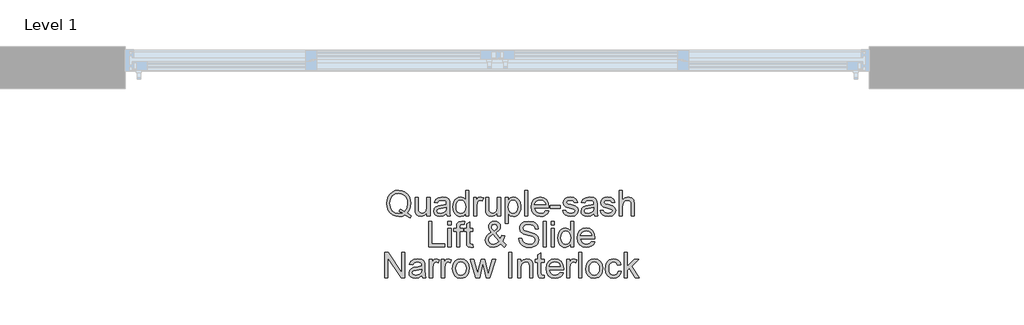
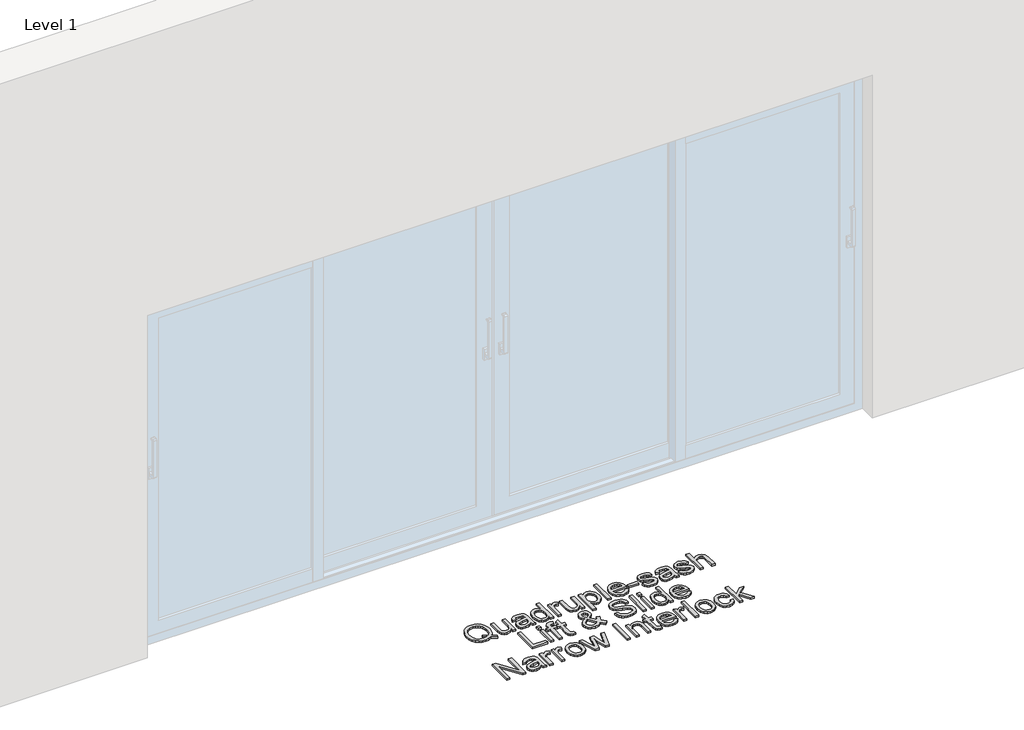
# One storey, part 2 of 17: 1 proxy.
"""IFC4 building model written with IfcOpenShell, lengths in millimetres."""

from ifc_helpers import new_model, si_unit, origin, origin_with_axes, place, context, project, spatial, polyline, outline, extrude, element, save

model = new_model("IFC4")

# Units and contexts
model_context = context("Model", 3, world=origin())
ifc_project = project(units=[si_unit("LENGTHUNIT", "METRE", prefix="MILLI")], contexts=[model_context])

# Site, building, storey
site = spatial("IfcSite", under=ifc_project)
building = spatial("IfcBuilding", under=site)
storey = spatial("IfcBuildingStorey", under=building, Name="Level 1", Elevation=0.0)

# Proxy
placement = place(None, origin())
element("IfcBuildingElementProxy", 1, Name="150mm Arial", ObjectType="150mm Arial", at=placement, inside=storey, context=model_context, shape_type="SweptSolid", body=[
    extrude(outline(polyline([(-5154.9723357, -5879.5997474), (-5131.611829, -5895.3083086), (-5136.6886005, -5909.1038834), (-5167.7010527, -5891.4823358), (-5185.1294623, -5897.8834825), (-5204.3053113, -5900.0171981), (-5223.5731308, -5897.5569873), (-5240.9831462, -5890.1763547), (-5255.5650688, -5878.3397515), (-5266.3486097, -5862.5116287), (-5273.0118724, -5843.5611074), (-5275.2329599, -5822.3573089), (-5273.0164709, -5801.1351163), (-5266.3670038, -5781.9086836), (-5255.6248496, -5765.855233), (-5241.130299, -5754.151987), (-5223.7846629, -5747.0058793), (-5204.4892523, -5744.6238433), (-5185.0420903, -5747.0610616), (-5167.6090822, -5754.3727162), (-5153.1375243, -5766.0713637), (-5142.5747125, -5781.6695603), (-5136.1183835, -5800.3395715), (-5133.9662738, -5821.2536629), (-5139.1901981, -5854.1791015), (-5145.7476947, -5867.8367206), (-5154.9723357, -5879.5997474)]), holes=[polyline([(-5199.1181751, -5854.5469835), (-5183.2808552, -5860.534263), (-5170.4969559, -5868.8575931), (-5157.2256129, -5849.4334238), (-5152.8018319, -5822.2101561), (-5154.3653304, -5805.6324737), (-5159.0558259, -5791.2896744), (-5166.7583551, -5779.5450417), (-5177.3579551, -5770.7618591), (-5190.1372559, -5765.2850159), (-5204.3788877, -5763.4594015), (-5224.906703, -5767.152017), (-5241.6085456, -5778.2298636), (-5252.7001877, -5796.6377589), (-5256.3974018, -5822.3205207), (-5252.7415744, -5847.4514595), (-5241.7740925, -5865.9697195), (-5225.1228337, -5877.3786598), (-5204.4156759, -5881.18164), (-5184.1453779, -5877.318879), (-5203.9742175, -5868.9679577), (-5199.1181751, -5854.5469835)])]), origin_with_axes(), (0.0, 0.0, 1.0), 10.0),
    extrude(outline(polyline([(-5037.4340382, -5897.6627533), (-5037.4340382, -5878.6432542), (-5052.1861063, -5894.6737121), (-5071.4263346, -5900.0171981), (-5089.1398527, -5896.2648018), (-5101.3535349, -5886.8470227), (-5106.9637353, -5872.9778715), (-5108.0673813, -5855.4666885), (-5108.0673813, -5787.0038492), (-5089.2318232, -5787.0038492), (-5089.2318232, -5846.6007324), (-5088.091389, -5865.8041726), (-5080.6417786, -5877.0797557), (-5066.6070805, -5881.18164), (-5050.8801252, -5876.9877852), (-5040.4874588, -5865.5650493), (-5037.4340382, -5844.5773814), (-5037.4340382, -5787.0038492), (-5018.5984801, -5787.0038492), (-5018.5984801, -5897.6627533), (-5037.4340382, -5897.6627533)])), origin_with_axes(), (0.0, 0.0, 1.0), 10.0),
    extrude(outline(polyline([(-4922.0662446, -5883.5360847), (-4940.3315856, -5896.30159), (-4960.5099131, -5900.0171981), (-4976.2506639, -5897.782315), (-4987.8619394, -5891.0776656), (-4995.0218427, -5880.8965314), (-4997.4084772, -5868.2321937), (-4993.8032336, -5853.3329729), (-4984.3302722, -5842.5172423), (-4971.1417027, -5836.3368247), (-4954.8445303, -5833.5041334), (-4922.1766092, -5827.0294103), (-4922.0662446, -5822.8355555), (-4923.3630286, -5814.4294519), (-4927.2533807, -5808.9296161), (-4935.9537899, -5804.846126), (-4948.0755016, -5803.4849626), (-4967.131789, -5807.1086002), (-4976.2184742, -5819.966076), (-4995.0540324, -5817.6116312), (-4986.9054462, -5799.2175314), (-4970.4979092, -5788.438589), (-4945.6474804, -5784.6494044), (-4922.8204026, -5787.9971306), (-4909.9261387, -5796.4032342), (-4904.1503914, -5809.1871335), (-4903.2306864, -5825.6682469), (-4903.2306864, -5849.10233), (-4902.2741932, -5881.8254334), (-4898.5217969, -5897.6627533), (-4917.357355, -5897.6627533), (-4922.0662446, -5883.5360847)]), holes=[polyline([(-4922.0662446, -5845.8649684), (-4952.4532974, -5851.6407157), (-4968.6584992, -5854.6941363), (-4975.9977451, -5859.6605432), (-4978.572919, -5866.9078185), (-4972.9627186, -5877.0981498), (-4956.4999993, -5881.18164), (-4937.443712, -5876.6750855), (-4925.1564533, -5865.7673844), (-4922.1766092, -5851.1992574), (-4922.0662446, -5845.8649684)])]), origin_with_axes(), (0.0, 0.0, 1.0), 10.0),
    extrude(outline(polyline([(-4809.0528956, -5897.6627533), (-4809.0528956, -5879.894053), (-4821.5148982, -5894.9864118), (-4838.7409727, -5900.0171981), (-4850.9178667, -5898.1961822), (-4862.0646911, -5892.7331346), (-4871.5008643, -5884.0097328), (-4878.5458045, -5872.4076544), (-4882.9327973, -5858.3959489), (-4884.3951283, -5842.4436659), (-4879.005657, -5812.4612833), (-4872.2734165, -5800.5694978), (-4862.8556374, -5791.8231033), (-4851.4650912, -5786.4428292), (-4838.8145491, -5784.6494044), (-4821.4505189, -5789.7813583), (-4809.0528956, -5803.1170806), (-4809.0528956, -5746.9782881), (-4790.2173375, -5746.9782881), (-4790.2173375, -5897.6627533), (-4809.0528956, -5897.6627533)]), holes=[polyline([(-4865.5595701, -5842.3700895), (-4863.4350516, -5859.4076244), (-4857.061496, -5871.5247376), (-4847.8000668, -5878.7674144), (-4837.0119273, -5881.18164), (-4826.2283863, -5878.877779), (-4817.2014818, -5871.966196), (-4811.0900422, -5860.3181323), (-4809.0528956, -5843.8048292), (-4811.1268304, -5825.7510203), (-4817.3486346, -5813.2338354), (-4826.6054653, -5805.9221808), (-4837.7844795, -5803.4849626), (-4848.6829836, -5805.8256118), (-4857.613319, -5812.8475594), (-4863.5730073, -5824.9094903), (-4865.5595701, -5842.3700895)])]), origin_with_axes(), (0.0, 0.0, 1.0), 10.0),
    extrude(outline(polyline([(-4761.9640003, -5897.6627533), (-4761.9640003, -5787.0038492), (-4745.4828869, -5787.0038492), (-4745.4828869, -5803.374598), (-4733.7842394, -5788.2914362), (-4722.0120156, -5784.6494044), (-4703.102881, -5790.4619399), (-4709.3936631, -5807.3477235), (-4722.637415, -5803.4849626), (-4733.2875987, -5807.2005707), (-4740.0750215, -5817.5012666), (-4743.1284421, -5839.5006099), (-4743.1284421, -5897.6627533), (-4761.9640003, -5897.6627533)])), origin_with_axes(), (0.0, 0.0, 1.0), 10.0),
    extrude(outline(polyline([(-4620.6973141, -5897.6627533), (-4620.6973141, -5878.6432542), (-4635.4493821, -5894.6737121), (-4654.6896105, -5900.0171981), (-4672.4031285, -5896.2648018), (-4684.6168108, -5886.8470227), (-4690.2270112, -5872.9778715), (-4691.3306572, -5855.4666885), (-4691.3306572, -5787.0038492), (-4672.495099, -5787.0038492), (-4672.495099, -5846.6007324), (-4671.3546648, -5865.8041726), (-4663.9050544, -5877.0797557), (-4649.8703563, -5881.18164), (-4634.143401, -5876.9877852), (-4623.7507347, -5865.5650493), (-4620.6973141, -5844.5773814), (-4620.6973141, -5787.0038492), (-4601.861756, -5787.0038492), (-4601.861756, -5897.6627533), (-4620.6973141, -5897.6627533)])), origin_with_axes(), (0.0, 0.0, 1.0), 10.0),
    extrude(outline(polyline([(-4575.9628635, -5940.0427592), (-4575.9628635, -5787.0038492), (-4557.1273053, -5787.0038492), (-4557.1273053, -5805.4715254), (-4544.1042827, -5789.8549347), (-4526.5195233, -5784.6494044), (-4513.7816093, -5786.4704203), (-4502.6439819, -5791.9334679), (-4493.5756907, -5800.7074535), (-4487.0457853, -5812.4612833), (-4481.7850727, -5841.4871727), (-4483.2703963, -5857.5958055), (-4487.726367, -5872.0029842), (-4495.0104305, -5883.9775431), (-4504.9800325, -5892.7883169), (-4516.591308, -5898.2099778), (-4528.8003917, -5900.0171981), (-4545.1895346, -5895.1795499), (-4557.1273053, -5882.9474735), (-4557.1273053, -5940.0427592), (-4575.9628635, -5940.0427592)]), holes=[polyline([(-4557.1273053, -5843.2162181), (-4555.0901588, -5860.1020016), (-4548.9787192, -5871.9110137), (-4539.9610117, -5878.8639834), (-4529.2050619, -5881.18164), (-4518.2743681, -5878.7812099), (-4509.0267345, -5871.5799199), (-4502.7221568, -5859.3386465), (-4500.6206309, -5841.8182665), (-4502.671573, -5825.0244534), (-4508.8243994, -5813.0498945), (-4517.8283112, -5805.8761955), (-4528.4325097, -5803.4849626), (-4539.078095, -5806.0279469), (-4548.4268962, -5813.6568997), (-4554.952203, -5826.1326979), (-4557.1273053, -5843.2162181)])]), origin_with_axes(), (0.0, 0.0, 1.0), 10.0),
    extrude(outline(polyline([(-4460.5950698, -5897.6627533), (-4460.5950698, -5746.9782881), (-4441.7595117, -5746.9782881), (-4441.7595117, -5897.6627533), (-4460.5950698, -5897.6627533)])), origin_with_axes(), (0.0, 0.0, 1.0), 10.0),
    extrude(outline(polyline([(-4336.0302262, -5864.7005266), (-4317.5625501, -5867.0549713), (-4324.2166157, -5880.9701078), (-4334.8346098, -5891.3719712), (-4349.177409, -5897.8558914), (-4367.0058902, -5900.0171981), (-4389.1064011, -5896.2877944), (-4406.1117463, -5885.0995832), (-4416.9550681, -5867.1791315), (-4420.5695087, -5843.2530063), (-4416.9182799, -5818.5221391), (-4405.9645935, -5800.0268718), (-4389.1891745, -5788.4937713), (-4368.072748, -5784.6494044), (-4347.6139106, -5788.4845742), (-4331.2661544, -5799.9900836), (-4320.5469928, -5818.4485627), (-4316.9739389, -5843.1426417), (-4317.0843035, -5848.2194132), (-4401.7339506, -5848.2194132), (-4398.4735964, -5862.3184907), (-4390.8998258, -5872.6835659), (-4379.969132, -5879.0571214), (-4366.6380082, -5881.18164), (-4348.1703321, -5877.2453026), (-4336.0302262, -5864.7005266)]), holes=[polyline([(-4401.7339506, -5829.383855), (-4335.809497, -5829.383855), (-4338.3570799, -5819.4326471), (-4343.3510779, -5812.3141305), (-4354.3323555, -5805.6922545), (-4368.1463244, -5803.4849626), (-4380.8428518, -5805.2461976), (-4391.3412842, -5810.5299028), (-4398.6391433, -5818.765861), (-4401.7339506, -5829.383855)])]), origin_with_axes(), (0.0, 0.0, 1.0), 10.0),
    extrude(outline(polyline([(-4307.5561598, -5852.9283027), (-4307.5561598, -5834.0927446), (-4248.6950406, -5834.0927446), (-4248.6950406, -5852.9283027), (-4307.5561598, -5852.9283027)])), origin_with_axes(), (0.0, 0.0, 1.0), 10.0),
    extrude(outline(polyline([(-4234.568372, -5864.7005266), (-4215.7328138, -5862.3460818), (-4212.7621667, -5870.4026975), (-4207.0140105, -5876.3255976), (-4187.0380182, -5881.18164), (-4167.834578, -5876.7302678), (-4161.5805841, -5866.2824192), (-4163.1532797, -5861.4815591), (-4167.8713662, -5857.8211333), (-4187.2587474, -5852.4500561), (-4215.6224492, -5843.2346122), (-4228.0016784, -5832.4740638), (-4232.2139272, -5817.2805374), (-4228.8294128, -5803.2458393), (-4219.5955748, -5792.5220791), (-4207.6210158, -5786.9486669), (-4191.4158139, -5784.6494044), (-4168.4967656, -5788.3466185), (-4153.9286386, -5798.3530087), (-4147.4539155, -5815.2571864), (-4166.2894737, -5817.6116312), (-4173.3712021, -5807.2189648), (-4189.944286, -5803.4849626), (-4207.9705037, -5807.0534179), (-4213.3783691, -5815.367551), (-4211.1342889, -5820.8489927), (-4204.1077428, -5825.0060593), (-4187.8841468, -5829.015973), (-4160.2378148, -5837.8819291), (-4147.3987332, -5847.9251076), (-4142.745026, -5864.2958564), (-4148.2080736, -5882.3220741), (-4163.9718171, -5895.4002791), (-4187.2955356, -5900.0171981), (-4206.2874436, -5897.791512), (-4220.1473978, -5891.1144538), (-4229.3996299, -5880.0595999), (-4234.568372, -5864.7005266)])), origin_with_axes(), (0.0, 0.0, 1.0), 10.0),
    extrude(outline(polyline([(-4050.92168, -5883.5360847), (-4069.187021, -5896.30159), (-4089.3653485, -5900.0171981), (-4105.1060993, -5897.782315), (-4116.7173748, -5891.0776656), (-4123.8772781, -5880.8965314), (-4126.2639126, -5868.2321937), (-4122.658669, -5853.3329729), (-4113.1857077, -5842.5172423), (-4099.9971381, -5836.3368247), (-4083.6999658, -5833.5041334), (-4051.0320446, -5827.0294103), (-4050.92168, -5822.8355555), (-4052.218464, -5814.4294519), (-4056.1088161, -5808.9296161), (-4064.8092253, -5804.846126), (-4076.930937, -5803.4849626), (-4095.9872244, -5807.1086002), (-4105.0739097, -5819.966076), (-4123.9094678, -5817.6116312), (-4115.7608816, -5799.2175314), (-4099.3533446, -5788.438589), (-4074.5029159, -5784.6494044), (-4051.6758381, -5787.9971306), (-4038.7815741, -5796.4032342), (-4033.0058268, -5809.1871335), (-4032.0861218, -5825.6682469), (-4032.0861218, -5849.10233), (-4031.1296286, -5881.8254334), (-4027.3772323, -5897.6627533), (-4046.2127904, -5897.6627533), (-4050.92168, -5883.5360847)]), holes=[polyline([(-4050.92168, -5845.8649684), (-4081.3087328, -5851.6407157), (-4097.5139347, -5854.6941363), (-4104.8531805, -5859.6605432), (-4107.4283544, -5866.9078185), (-4101.818154, -5877.0981498), (-4085.3554347, -5881.18164), (-4066.2991474, -5876.6750855), (-4054.0118887, -5865.7673844), (-4051.0320446, -5851.1992574), (-4050.92168, -5845.8649684)])]), origin_with_axes(), (0.0, 0.0, 1.0), 10.0),
    extrude(outline(polyline([(-4013.2505637, -5864.7005266), (-3994.4150055, -5862.3460818), (-3991.4443584, -5870.4026975), (-3985.6962022, -5876.3255976), (-3965.7202099, -5881.18164), (-3946.5167697, -5876.7302678), (-3940.2627758, -5866.2824192), (-3941.8354714, -5861.4815591), (-3946.5535579, -5857.8211333), (-3965.9409391, -5852.4500561), (-3994.3046409, -5843.2346122), (-4006.6838701, -5832.4740638), (-4010.8961189, -5817.2805374), (-4007.5116045, -5803.2458393), (-3998.2777665, -5792.5220791), (-3986.3032075, -5786.9486669), (-3970.0980056, -5784.6494044), (-3947.1789573, -5788.3466185), (-3932.6108303, -5798.3530087), (-3926.1361072, -5815.2571864), (-3944.9716654, -5817.6116312), (-3952.0533938, -5807.2189648), (-3968.6264777, -5803.4849626), (-3986.6526954, -5807.0534179), (-3992.0605608, -5815.367551), (-3989.8164806, -5820.8489927), (-3982.7899345, -5825.0060593), (-3966.5663385, -5829.015973), (-3938.9200065, -5837.8819291), (-3926.0809249, -5847.9251076), (-3921.4272177, -5864.2958564), (-3926.8902653, -5882.3220741), (-3942.6540088, -5895.4002791), (-3965.9777273, -5900.0171981), (-3984.9696353, -5897.791512), (-3998.8295895, -5891.1144538), (-4008.0818216, -5880.0595999), (-4013.2505637, -5864.7005266)])), origin_with_axes(), (0.0, 0.0, 1.0), 10.0),
    extrude(outline(polyline([(-3900.2372148, -5897.6627533), (-3900.2372148, -5746.9782881), (-3881.4016566, -5746.9782881), (-3881.4016566, -5802.3813166), (-3866.7139679, -5789.0823825), (-3848.6233708, -5784.6494044), (-3827.4701561, -5789.4870527), (-3814.6310745, -5802.8595632), (-3810.7683135, -5827.6180215), (-3810.7683135, -5897.6627533), (-3829.6038717, -5897.6627533), (-3829.6038717, -5829.567796), (-3831.1029908, -5817.7771781), (-3835.6003482, -5809.7021683), (-3842.8476235, -5805.039264), (-3852.5964964, -5803.4849626), (-3868.0291461, -5807.6788173), (-3878.3298419, -5819.046371), (-3881.4016566, -5838.8752105), (-3881.4016566, -5897.6627533), (-3900.2372148, -5897.6627533)])), origin_with_axes(), (0.0, 0.0, 1.0), 10.0),
    extrude(outline(polyline([(-5026.8390368, -6080.6249801), (-5026.8390368, -5929.9405149), (-5008.0034786, -5929.9405149), (-5008.0034786, -6061.789422), (-4932.661246, -6061.789422), (-4932.661246, -6080.6249801), (-5026.8390368, -6080.6249801)])), origin_with_axes(), (0.0, 0.0, 1.0), 10.0),
    extrude(outline(polyline([(-4913.8256879, -5948.776073), (-4913.8256879, -5929.9405149), (-4894.9901297, -5929.9405149), (-4894.9901297, -5948.776073), (-4913.8256879, -5948.776073)])), origin_with_axes(), (0.0, 0.0, 1.0), 10.0),
    extrude(outline(polyline([(-4913.8256879, -6080.6249801), (-4913.8256879, -5969.966076), (-4894.9901297, -5969.966076), (-4894.9901297, -6080.6249801), (-4913.8256879, -6080.6249801)])), origin_with_axes(), (0.0, 0.0, 1.0), 10.0),
    extrude(outline(polyline([(-4765.4956674, -6064.9164189), (-4763.1412226, -6081.1768031), (-4777.2311031, -6082.9794249), (-4793.0132407, -6079.8524279), (-4800.8859153, -6071.6486594), (-4803.1667837, -6050.2747155), (-4803.1667837, -5988.8016341), (-4817.2934523, -5988.8016341), (-4817.2934523, -5969.966076), (-4803.1667837, -5969.966076), (-4803.1667837, -5943.0739021), (-4784.3312256, -5932.0006541), (-4784.3312256, -5969.966076), (-4765.4956674, -5969.966076), (-4765.4956674, -5988.8016341), (-4784.3312256, -5988.8016341), (-4784.3312256, -6049.7228925), (-4783.3379442, -6059.4349772), (-4780.1189767, -6062.8746738), (-4773.6994359, -6064.1438667), (-4765.4956674, -6064.9164189)])), origin_with_axes(), (0.0, 0.0, 1.0), 10.0),
    extrude(outline(polyline([(-4862.0279029, -6080.6249801), (-4862.0279029, -5988.8016341), (-4878.5090163, -5988.8016341), (-4878.5090163, -5969.966076), (-4862.0279029, -5969.966076), (-4862.0279029, -5958.8192515), (-4860.0413402, -5943.1106903), (-4850.4028319, -5931.8902895), (-4831.4201209, -5927.5860701), (-4814.2400318, -5929.6462093), (-4816.9991467, -5947.3045451), (-4827.8516656, -5946.4216283), (-4839.7158599, -5949.5486252), (-4843.1923448, -5961.2104845), (-4843.1923448, -5969.966076), (-4822.0023419, -5969.966076), (-4822.0023419, -5988.8016341), (-4843.1923448, -5988.8016341), (-4843.1923448, -6080.6249801), (-4862.0279029, -6080.6249801)])), origin_with_axes(), (0.0, 0.0, 1.0), 10.0),
    extrude(outline(polyline([(-4601.3835094, -6062.0101512), (-4621.3595017, -6077.7371064), (-4644.7200084, -6082.9794249), (-4665.5053411, -6079.0982698), (-4681.5082079, -6067.4548047), (-4689.7579617, -6054.054703), (-4692.5078796, -6039.1646793), (-4690.2959891, -6025.9669127), (-4683.6603176, -6014.1119154), (-4672.6284563, -6003.6088844), (-4657.2279962, -5994.4670168), (-4670.3797776, -5975.4107295), (-4673.6723214, -5961.2840609), (-4671.0787533, -5948.5645409), (-4663.2980492, -5937.6292486), (-4651.5902047, -5930.0968647), (-4637.2152157, -5927.5860701), (-4623.5392025, -5929.9865001), (-4612.6039102, -5937.1877902), (-4605.4302113, -5947.7552005), (-4603.0389783, -5960.2539913), (-4604.8094104, -5970.7478252), (-4610.1207067, -5980.4507128), (-4631.365892, -5997.4836492), (-4604.1058361, -6031.4391574), (-4595.975644, -6010.5802482), (-4577.1400859, -6014.6637384), (-4590.4574141, -6045.6761906), (-4567.7223068, -6068.4848743), (-4581.8489754, -6082.9794249), (-4601.3835094, -6062.0101512)]), holes=[polyline([(-4640.8940356, -5985.6010608), (-4625.4062036, -5973.9208074), (-4621.8745365, -5962.8291653), (-4626.5282437, -5951.0017591), (-4638.1717089, -5946.4216283), (-4650.0726914, -5950.9649709), (-4654.8367633, -5962.0566131), (-4653.2180825, -5968.9544005), (-4648.3252519, -5976.6247401), (-4640.8940356, -5985.6010608)]), polyline([(-4614.0018618, -6048.4353055), (-4647.6262762, -6006.4599699), (-4668.3196384, -6022.2421075), (-4673.6723214, -6036.6630817), (-4671.8421085, -6045.5474319), (-4666.3514697, -6054.7628758), (-4657.5039077, -6061.798619), (-4645.6029252, -6064.1438667), (-4628.2940773, -6059.766071), (-4614.0018618, -6048.4353055)])]), origin_with_axes(), (0.0, 0.0, 1.0), 10.0),
    extrude(outline(polyline([(-4494.734519, -6028.8271952), (-4475.8989608, -6028.8271952), (-4469.8289079, -6047.6811474), (-4455.0032635, -6059.6005241), (-4432.415309, -6064.1438667), (-4412.7336222, -6060.7041701), (-4400.0232993, -6051.2496028), (-4395.8478387, -6038.6128563), (-4398.9748356, -6026.8590265), (-4411.777129, -6018.3057701), (-4439.2027318, -6011.1136771), (-4468.7252619, -6001.8246567), (-4484.7465228, -5987.8083527), (-4490.0256294, -5969.0831592), (-4488.3931531, -5958.0512978), (-4483.495724, -5947.7643976), (-4475.4621009, -5939.0455943), (-4464.4210426, -5932.7180239), (-4436.4987991, -5927.5860701), (-4406.7003575, -5932.9571472), (-4395.2776216, -5939.5882202), (-4386.8347298, -5948.7392848), (-4381.4912438, -5959.840124), (-4379.3667253, -5972.3205207), (-4398.2022834, -5972.3205207), (-4401.6603742, -5961.0817258), (-4408.8708613, -5952.9699278), (-4420.1372474, -5948.0587031), (-4435.7630351, -5946.4216283), (-4451.7567049, -5948.040309), (-4462.7287854, -5952.8963514), (-4469.0747498, -5960.0424591), (-4471.1900713, -5968.5313362), (-4469.6909521, -5975.7694144), (-4465.1935947, -5981.591147), (-4434.43866, -5992.1125721), (-4401.1085512, -6001.5671393), (-4390.3709955, -6008.4005474), (-4382.8799983, -6016.8342421), (-4378.47921, -6026.7762531), (-4377.0122805, -6038.1346097), (-4378.6999392, -6049.7458851), (-4383.7629151, -6060.6673819), (-4391.9942748, -6070.0667668), (-4403.1870845, -6077.1117071), (-4416.646967, -6081.5124954), (-4431.679545, -6082.9794249), (-4450.1334256, -6081.3975323), (-4465.3223534, -6076.6518546), (-4477.4210726, -6068.7239976), (-4486.6043269, -6057.5955672), (-4492.4996358, -6044.0391157), (-4494.734519, -6028.8271952)])), origin_with_axes(), (0.0, 0.0, 1.0), 10.0),
    extrude(outline(polyline([(-4351.113388, -6080.6249801), (-4351.113388, -5929.9405149), (-4332.2778299, -5929.9405149), (-4332.2778299, -6080.6249801), (-4351.113388, -6080.6249801)])), origin_with_axes(), (0.0, 0.0, 1.0), 10.0),
    extrude(outline(polyline([(-4304.0244927, -5948.776073), (-4304.0244927, -5929.9405149), (-4285.1889345, -5929.9405149), (-4285.1889345, -5948.776073), (-4304.0244927, -5948.776073)])), origin_with_axes(), (0.0, 0.0, 1.0), 10.0),
    extrude(outline(polyline([(-4304.0244927, -6080.6249801), (-4304.0244927, -5969.966076), (-4285.1889345, -5969.966076), (-4285.1889345, -6080.6249801), (-4304.0244927, -6080.6249801)])), origin_with_axes(), (0.0, 0.0, 1.0), 10.0),
    extrude(outline(polyline([(-4188.656699, -6080.6249801), (-4188.656699, -6062.8562797), (-4201.1187016, -6077.9486386), (-4218.344776, -6082.9794249), (-4230.52167, -6081.158409), (-4241.6684945, -6075.6953614), (-4251.1046677, -6066.9719596), (-4258.1496079, -6055.3698811), (-4262.5366007, -6041.3581756), (-4263.9989316, -6025.4058926), (-4258.6094604, -5995.42351), (-4251.8772198, -5983.5317245), (-4242.4594408, -5974.7853301), (-4231.0688945, -5969.4050559), (-4218.4183524, -5967.6116312), (-4201.0543222, -5972.743585), (-4188.656699, -5986.0793073), (-4188.656699, -5929.9405149), (-4169.8211408, -5929.9405149), (-4169.8211408, -6080.6249801), (-4188.656699, -6080.6249801)]), holes=[polyline([(-4245.1633734, -6025.3323162), (-4243.0388549, -6042.3698511), (-4236.6652993, -6054.4869644), (-4227.4038701, -6061.7296411), (-4216.6157306, -6064.1438667), (-4205.8321896, -6061.8400057), (-4196.8052852, -6054.9284227), (-4190.6938455, -6043.2803591), (-4188.656699, -6026.767056), (-4190.7306337, -6008.7132471), (-4196.952438, -5996.1960622), (-4206.2092687, -5988.8844076), (-4217.3882828, -5986.4471893), (-4228.2867869, -5988.7878385), (-4237.2171223, -5995.8097861), (-4243.1768107, -6007.871717), (-4245.1633734, -6025.3323162)])]), origin_with_axes(), (0.0, 0.0, 1.0), 10.0),
    extrude(outline(polyline([(-4064.0918554, -6047.6627533), (-4045.6241792, -6050.0171981), (-4052.2782448, -6063.9323346), (-4062.8962389, -6074.334198), (-4077.2390382, -6080.8181182), (-4095.0675194, -6082.9794249), (-4117.1680303, -6079.2500212), (-4134.1733755, -6068.06181), (-4145.0166973, -6050.1413583), (-4148.6311379, -6026.215233), (-4144.9799091, -6001.4843659), (-4134.0262227, -5982.9890986), (-4117.2508037, -5971.455998), (-4096.1343772, -5967.6116312), (-4075.6755397, -5971.446801), (-4059.3277836, -5982.9523104), (-4048.6086219, -6001.4107895), (-4045.0355681, -6026.1048684), (-4045.1459327, -6031.18164), (-4129.7955797, -6031.18164), (-4126.5352256, -6045.2807174), (-4118.961455, -6055.6457926), (-4108.0307612, -6062.0193482), (-4094.6996374, -6064.1438667), (-4076.2319612, -6060.2075294), (-4064.0918554, -6047.6627533)]), holes=[polyline([(-4129.7955797, -6012.3460818), (-4063.8711262, -6012.3460818), (-4066.418709, -6002.3948738), (-4071.4127071, -5995.2763572), (-4082.3939847, -5988.6544813), (-4096.2079536, -5986.4471893), (-4108.9044809, -5988.2084244), (-4119.4029134, -5993.4921296), (-4126.7007725, -6001.7280877), (-4129.7955797, -6012.3460818)])]), origin_with_axes(), (0.0, 0.0, 1.0), 10.0),
    extrude(outline(polyline([(-5287.0051838, -6263.5872069), (-5287.0051838, -6112.9027417), (-5266.8452504, -6112.9027417), (-5188.1185035, -6232.2804491), (-5188.1185035, -6112.9027417), (-5169.2829453, -6112.9027417), (-5169.2829453, -6263.5872069), (-5189.4428787, -6263.5872069), (-5268.1696256, -6144.1727112), (-5268.1696256, -6263.5872069), (-5287.0051838, -6263.5872069)])), origin_with_axes(), (0.0, 0.0, 1.0), 10.0),
    extrude(outline(polyline([(-5068.0418202, -6249.4605383), (-5086.3071613, -6262.2260435), (-5106.4854887, -6265.9416516), (-5122.2262396, -6263.7067685), (-5133.8375151, -6257.0021192), (-5140.9974184, -6246.8209849), (-5143.3840529, -6234.1566473), (-5139.7788093, -6219.2574265), (-5130.3058479, -6208.4416958), (-5117.1172784, -6202.2612783), (-5100.820106, -6199.4285869), (-5068.1521848, -6192.9538638), (-5068.0418202, -6188.7600091), (-5069.3386043, -6180.3539055), (-5073.2289564, -6174.8540696), (-5081.9293656, -6170.7705795), (-5094.0510773, -6169.4094161), (-5113.1073647, -6173.0330538), (-5122.1940499, -6185.8905295), (-5141.0296081, -6183.5360847), (-5132.8810219, -6165.141985), (-5116.4734849, -6154.3630425), (-5091.6230561, -6150.573858), (-5068.7959783, -6153.9215841), (-5055.9017144, -6162.3276877), (-5050.1259671, -6175.111587), (-5049.2062621, -6191.5927004), (-5049.2062621, -6215.0267835), (-5048.2497689, -6247.749887), (-5044.4973726, -6263.5872069), (-5063.3329307, -6263.5872069), (-5068.0418202, -6249.4605383)]), holes=[polyline([(-5068.0418202, -6211.789422), (-5098.428873, -6217.5651693), (-5114.6340749, -6220.6185898), (-5121.9733207, -6225.5849968), (-5124.5484947, -6232.8322721), (-5118.9382943, -6243.0226033), (-5102.475575, -6247.1060935), (-5083.4192876, -6242.5995391), (-5071.132029, -6231.6918379), (-5068.1521848, -6217.1237109), (-5068.0418202, -6211.789422)])]), origin_with_axes(), (0.0, 0.0, 1.0), 10.0),
    extrude(outline(polyline([(-5023.3073696, -6263.5872069), (-5023.3073696, -6152.9283027), (-5006.8262562, -6152.9283027), (-5006.8262562, -6169.2990515), (-4995.1276088, -6154.2158897), (-4983.355385, -6150.573858), (-4964.4462504, -6156.3863935), (-4970.7370325, -6173.2721771), (-4983.9807843, -6169.4094161), (-4994.6309681, -6173.1250243), (-5001.4183909, -6183.4257201), (-5004.4718115, -6205.4250634), (-5004.4718115, -6263.5872069), (-5023.3073696, -6263.5872069)])), origin_with_axes(), (0.0, 0.0, 1.0), 10.0),
    extrude(outline(polyline([(-4952.6740266, -6263.5872069), (-4952.6740266, -6152.9283027), (-4936.1929132, -6152.9283027), (-4936.1929132, -6169.2990515), (-4924.4942657, -6154.2158897), (-4912.7220419, -6150.573858), (-4893.8129073, -6156.3863935), (-4900.1036894, -6173.2721771), (-4913.3474413, -6169.4094161), (-4923.997625, -6173.1250243), (-4930.7850478, -6183.4257201), (-4933.8384684, -6205.4250634), (-4933.8384684, -6263.5872069), (-4952.6740266, -6263.5872069)])), origin_with_axes(), (0.0, 0.0, 1.0), 10.0),
    extrude(outline(polyline([(-4886.749573, -6208.2577548), (-4882.6752799, -6181.5771131), (-4870.4524006, -6162.8243284), (-4855.3508447, -6153.6364756), (-4837.2694447, -6150.573858), (-4817.4819919, -6154.3032617), (-4801.6768616, -6165.4914729), (-4791.3163849, -6183.2555747), (-4787.8628927, -6206.7126504), (-4789.389603, -6225.7413466), (-4793.9697338, -6240.2267002), (-4801.469928, -6251.0746205), (-4811.7568283, -6259.191017), (-4823.9751091, -6264.253993), (-4837.2694447, -6265.9416516), (-4857.2960208, -6262.2260435), (-4873.0827569, -6251.079219), (-4883.332869, -6232.9426367), (-4886.749573, -6208.2577548)]), holes=[polyline([(-4867.9140149, -6208.2209666), (-4865.734314, -6225.2676986), (-4859.1952116, -6237.4124029), (-4849.3543682, -6244.6826709), (-4837.2694447, -6247.1060935), (-4825.2397034, -6244.6688753), (-4815.4172542, -6237.3572206), (-4808.8781517, -6225.0515679), (-4806.6984509, -6207.6323554), (-4808.8919473, -6191.0822642), (-4815.4724365, -6179.1031067), (-4825.3086813, -6171.8328388), (-4837.2694447, -6169.4094161), (-4849.3543682, -6171.8236417), (-4859.1952116, -6179.0663185), (-4865.734314, -6191.1834317), (-4867.9140149, -6208.2209666)])]), origin_with_axes(), (0.0, 0.0, 1.0), 10.0),
    extrude(outline(polyline([(-4748.3155782, -6263.5872069), (-4781.9767808, -6152.9283027), (-4762.4054587, -6152.9283027), (-4743.3123831, -6217.4915929), (-4737.6102122, -6240.557794), (-4732.9381108, -6218.3377215), (-4717.7445844, -6152.9283027), (-4695.3037827, -6152.9283027), (-4680.1838327, -6218.1537805), (-4676.0267662, -6238.2769256), (-4670.0670779, -6217.0501345), (-4650.9372141, -6152.9283027), (-4631.2923156, -6152.9283027), (-4665.2110355, -6263.5872069), (-4687.982931, -6263.5872069), (-4702.4406934, -6198.6928229), (-4706.6345482, -6178.4593132), (-4725.2861653, -6263.5872069), (-4748.3155782, -6263.5872069)])), origin_with_axes(), (0.0, 0.0, 1.0), 10.0),
    extrude(outline(polyline([(-4554.7728606, -6263.5872069), (-4554.7728606, -6112.9027417), (-4535.9373024, -6112.9027417), (-4535.9373024, -6263.5872069), (-4554.7728606, -6263.5872069)])), origin_with_axes(), (0.0, 0.0, 1.0), 10.0),
    extrude(outline(polyline([(-4500.6206309, -6263.5872069), (-4500.6206309, -6152.9283027), (-4481.7850727, -6152.9283027), (-4481.7850727, -6168.3793465), (-4467.3824926, -6155.0252301), (-4447.7192, -6150.573858), (-4429.9321055, -6154.1607074), (-4417.7919997, -6163.5784865), (-4412.145011, -6177.4292436), (-4411.1517297, -6195.6394024), (-4411.1517297, -6263.5872069), (-4429.9872878, -6263.5872069), (-4429.9872878, -6198.1777881), (-4432.1577916, -6181.5127338), (-4439.8281312, -6172.70196), (-4452.7591833, -6169.4094161), (-4463.7910446, -6171.2580231), (-4473.1950281, -6176.8038442), (-4479.6375616, -6187.5184073), (-4481.7850727, -6204.8732404), (-4481.7850727, -6263.5872069), (-4500.6206309, -6263.5872069)])), origin_with_axes(), (0.0, 0.0, 1.0), 10.0),
    extrude(outline(polyline([(-4345.2272761, -6247.8786457), (-4342.8728314, -6264.1390299), (-4356.9627118, -6265.9416516), (-4372.7448494, -6262.8146547), (-4380.6175241, -6254.6108862), (-4382.8983924, -6233.2369423), (-4382.8983924, -6171.7638609), (-4397.025061, -6171.7638609), (-4397.025061, -6152.9283027), (-4382.8983924, -6152.9283027), (-4382.8983924, -6126.0361289), (-4364.0628343, -6114.9628808), (-4364.0628343, -6152.9283027), (-4345.2272761, -6152.9283027), (-4345.2272761, -6171.7638609), (-4364.0628343, -6171.7638609), (-4364.0628343, -6232.6851193), (-4363.0695529, -6242.397204), (-4359.8505854, -6245.8369006), (-4353.4310446, -6247.1060935), (-4345.2272761, -6247.8786457)])), origin_with_axes(), (0.0, 0.0, 1.0), 10.0),
    extrude(outline(polyline([(-4248.9157698, -6230.6249801), (-4230.4480936, -6232.9794249), (-4237.1021592, -6246.8945613), (-4247.7201533, -6257.2964248), (-4262.0629526, -6263.7803449), (-4279.8914338, -6265.9416516), (-4301.9919446, -6262.2122479), (-4318.9972899, -6251.0240367), (-4329.8406117, -6233.1035851), (-4333.4550523, -6209.1774598), (-4329.8038235, -6184.4465927), (-4318.8501371, -6165.9513254), (-4302.0747181, -6154.4182248), (-4280.9582916, -6150.573858), (-4260.4994541, -6154.4090278), (-4244.1516979, -6165.9145372), (-4233.4325363, -6184.3730163), (-4229.8594824, -6209.0670952), (-4229.969847, -6214.1438667), (-4314.6194941, -6214.1438667), (-4311.3591399, -6228.2429442), (-4303.7853694, -6238.6080194), (-4292.8546756, -6244.981575), (-4279.5235518, -6247.1060935), (-4261.0558756, -6243.1697561), (-4248.9157698, -6230.6249801)]), holes=[polyline([(-4314.6194941, -6195.3083086), (-4248.6950406, -6195.3083086), (-4251.2426234, -6185.3571006), (-4256.2366215, -6178.238584), (-4267.217899, -6171.6167081), (-4281.031868, -6169.4094161), (-4293.7283953, -6171.1706512), (-4304.2268278, -6176.4543563), (-4311.5246868, -6184.6903145), (-4314.6194941, -6195.3083086)])]), origin_with_axes(), (0.0, 0.0, 1.0), 10.0),
    extrude(outline(polyline([(-4211.0239243, -6263.5872069), (-4211.0239243, -6152.9283027), (-4194.5428109, -6152.9283027), (-4194.5428109, -6169.2990515), (-4182.8441635, -6154.2158897), (-4171.0719396, -6150.573858), (-4152.1628051, -6156.3863935), (-4158.4535872, -6173.2721771), (-4171.697339, -6169.4094161), (-4182.3475228, -6173.1250243), (-4189.1349456, -6183.4257201), (-4192.1883661, -6205.4250634), (-4192.1883661, -6263.5872069), (-4211.0239243, -6263.5872069)])), origin_with_axes(), (0.0, 0.0, 1.0), 10.0),
    extrude(outline(polyline([(-4140.3905812, -6263.5872069), (-4140.3905812, -6112.9027417), (-4121.5550231, -6112.9027417), (-4121.5550231, -6263.5872069), (-4140.3905812, -6263.5872069)])), origin_with_axes(), (0.0, 0.0, 1.0), 10.0),
    extrude(outline(polyline([(-4098.0105754, -6208.2577548), (-4093.9362823, -6181.5771131), (-4081.713403, -6162.8243284), (-4066.6118471, -6153.6364756), (-4048.530447, -6150.573858), (-4028.7429942, -6154.3032617), (-4012.937864, -6165.4914729), (-4002.5773873, -6183.2555747), (-3999.1238951, -6206.7126504), (-4000.6506053, -6225.7413466), (-4005.2307362, -6240.2267002), (-4012.7309304, -6251.0746205), (-4023.0178306, -6259.191017), (-4035.2361114, -6264.253993), (-4048.530447, -6265.9416516), (-4068.5570231, -6262.2260435), (-4084.3437592, -6251.079219), (-4094.5938713, -6232.9426367), (-4098.0105754, -6208.2577548)]), holes=[polyline([(-4079.1750172, -6208.2209666), (-4076.9953164, -6225.2676986), (-4070.4562139, -6237.4124029), (-4060.6153706, -6244.6826709), (-4048.530447, -6247.1060935), (-4036.5007058, -6244.6688753), (-4026.6782565, -6237.3572206), (-4020.139154, -6225.0515679), (-4017.9594532, -6207.6323554), (-4020.1529496, -6191.0822642), (-4026.7334388, -6179.1031067), (-4036.5696836, -6171.8328388), (-4048.530447, -6169.4094161), (-4060.6153706, -6171.8236417), (-4070.4562139, -6179.0663185), (-4076.9953164, -6191.1834317), (-4079.1750172, -6208.2209666)])]), origin_with_axes(), (0.0, 0.0, 1.0), 10.0),
    extrude(outline(polyline([(-3907.3005491, -6223.5616458), (-3888.4649909, -6225.9160906), (-3893.7165064, -6242.6685169), (-3903.5849409, -6255.3282561), (-3917.1413924, -6263.2883028), (-3933.4569589, -6265.9416516), (-3953.4927321, -6262.2398391), (-3969.1599066, -6251.1344013), (-3979.2720629, -6233.1127821), (-3982.6427817, -6208.662425), (-3981.2034434, -6191.9008016), (-3976.8854285, -6177.3740613), (-3969.619759, -6165.6432242), (-3959.3374573, -6157.2693103), (-3947.0364031, -6152.247721), (-3933.7144763, -6150.573858), (-3917.7989815, -6152.8731204), (-3905.074863, -6159.7709078), (-3895.946791, -6170.8993382), (-3890.8194357, -6185.8905295), (-3909.6549938, -6188.2449743), (-3918.3921912, -6174.1366998), (-3933.5673235, -6169.4094161), (-3945.739619, -6171.7362697), (-3955.4011199, -6178.7168306), (-3961.7056976, -6190.7281777), (-3963.8072235, -6208.1473902), (-3961.7516829, -6225.8011274), (-3955.5850609, -6237.8538613), (-3946.098304, -6244.7930354), (-3934.0823583, -6247.1060935), (-3924.3288869, -6245.6621567), (-3916.332052, -6241.3303462), (-3910.514918, -6234.0002974), (-3907.3005491, -6223.5616458)])), origin_with_axes(), (0.0, 0.0, 1.0), 10.0),
    extrude(outline(polyline([(-3871.9838775, -6263.5872069), (-3871.9838775, -6112.9027417), (-3853.1483194, -6112.9027417), (-3853.1483194, -6193.8735688), (-3810.9154663, -6152.9283027), (-3784.8694211, -6152.9283027), (-3827.6173089, -6194.3886036), (-3782.5149763, -6263.5872069), (-3804.5143196, -6263.5872069), (-3841.1185781, -6207.4852026), (-3853.1483194, -6219.1470619), (-3853.1483194, -6263.5872069), (-3871.9838775, -6263.5872069)])), origin_with_axes(), (0.0, 0.0, 1.0), 10.0),
])

save(model, "model.ifc")
